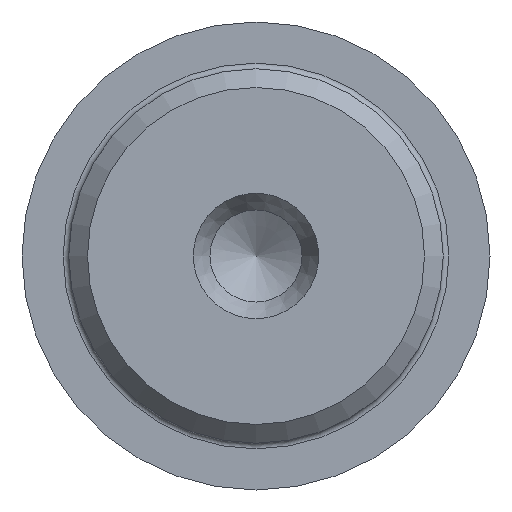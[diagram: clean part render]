
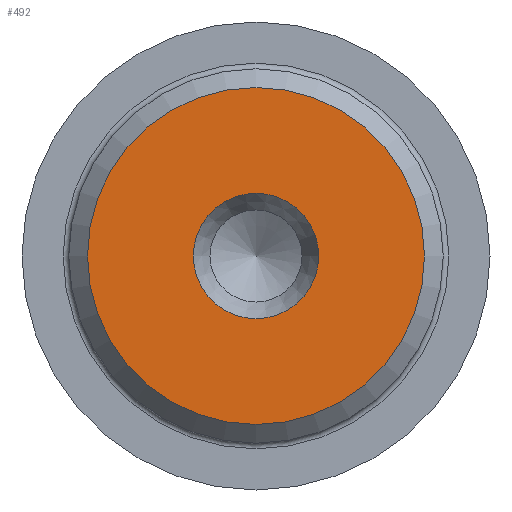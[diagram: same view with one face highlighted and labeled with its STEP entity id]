
A CAD part, left-side view. The second image highlights one B-rep face of the part: STEP entity #492.
In plain terms, the highlighted planar face has unit normal (-1, 0, 0).
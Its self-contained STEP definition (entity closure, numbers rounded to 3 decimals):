
#26=FACE_BOUND('',#99,.T.);
#31=PLANE('',#570);
#65=FACE_OUTER_BOUND('',#98,.T.);
#98=EDGE_LOOP('',(#394));
#99=EDGE_LOOP('',(#395));
#200=CIRCLE('',#569,9.);
#201=CIRCLE('',#571,3.35);
#239=VERTEX_POINT('',#871);
#240=VERTEX_POINT('',#875);
#297=EDGE_CURVE('',#239,#239,#200,.T.);
#298=EDGE_CURVE('',#240,#240,#201,.T.);
#394=ORIENTED_EDGE('',*,*,#297,.F.);
#395=ORIENTED_EDGE('',*,*,#298,.T.);
#492=ADVANCED_FACE('',(#65,#26),#31,.T.);
#569=AXIS2_PLACEMENT_3D('',#873,#682,#683);
#570=AXIS2_PLACEMENT_3D('',#874,#684,#685);
#571=AXIS2_PLACEMENT_3D('',#876,#686,#687);
#682=DIRECTION('center_axis',(1.,0.,0.));
#683=DIRECTION('ref_axis',(0.,-1.,0.));
#684=DIRECTION('center_axis',(-1.,0.,0.));
#685=DIRECTION('ref_axis',(0.,0.,1.));
#686=DIRECTION('center_axis',(1.,0.,0.));
#687=DIRECTION('ref_axis',(0.,0.,-1.));
#871=CARTESIAN_POINT('',(0.,9.,0.));
#873=CARTESIAN_POINT('Origin',(0.,0.,0.));
#874=CARTESIAN_POINT('Origin',(0.,10.,0.));
#875=CARTESIAN_POINT('',(0.,-3.35,0.));
#876=CARTESIAN_POINT('Origin',(0.,0.,0.));
